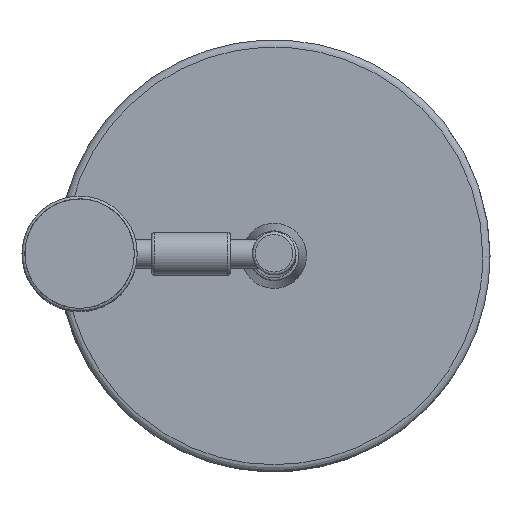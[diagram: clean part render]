
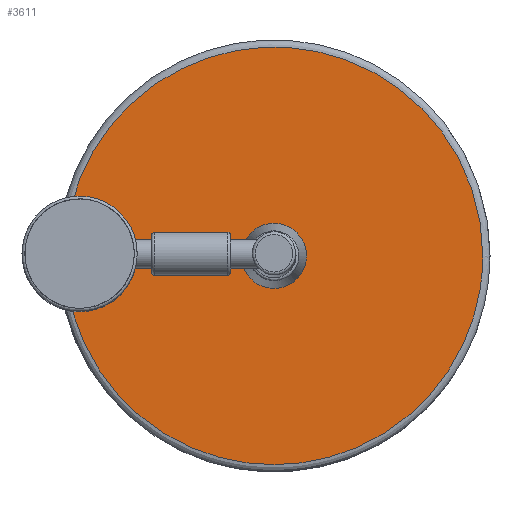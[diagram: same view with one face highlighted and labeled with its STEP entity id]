
A CAD part, top view. The second image highlights one B-rep face of the part: STEP entity #3611.
In plain terms, the highlighted free-form (B-spline) face has degree [1, 1] with [2, 2] control points.
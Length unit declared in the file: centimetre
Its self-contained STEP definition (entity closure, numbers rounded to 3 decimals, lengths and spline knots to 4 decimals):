
#3550 = CARTESIAN_POINT ('', (7.25, 0., 2.75));
#3551 = VERTEX_POINT ('', #3550);
#3560 = CARTESIAN_POINT ('', (7.25, 0., 2.75));
#3561 = CARTESIAN_POINT ('', (7.25, 7.25, 2.75));
#3562 = CARTESIAN_POINT ('', (0., 7.25, 2.75));
#3563 = CARTESIAN_POINT ('', (-7.25, 7.25, 2.75));
#3564 = CARTESIAN_POINT ('', (-7.25, 0., 2.75));
#3565 = CARTESIAN_POINT ('', (-7.25, -7.25, 2.75));
#3566 = CARTESIAN_POINT ('', (0., -7.25, 2.75));
#3567 = CARTESIAN_POINT ('', (7.25, -7.25, 2.75));
#3568 = CARTESIAN_POINT ('', (7.25, 0., 2.75));
#3569 = (
   BOUNDED_CURVE ()
   B_SPLINE_CURVE (2, (#3560, #3561, #3562, #3563, #3564, #3565, #3566, #3567, #3568), .UNSPECIFIED., .T., .U.)
   B_SPLINE_CURVE_WITH_KNOTS ((3, 2, 2, 2, 3), (0., 0.25, 0.5, 0.75, 1.), .UNSPECIFIED.)
   CURVE ()
   GEOMETRIC_REPRESENTATION_ITEM ()
   RATIONAL_B_SPLINE_CURVE ((1., 0.707, 1., 0.707, 1., 0.707, 1., 0.707, 1.))
   REPRESENTATION_ITEM ('')
);
#3570 = EDGE_CURVE ('', #3551, #3551, #3569, .T.);
#3603 = ORIENTED_EDGE ('', *, *, #3570, .T.);
#3604 = EDGE_LOOP ('', (#3603));
#3605 = FACE_OUTER_BOUND ('', #3604, .T.);
#3606 = CARTESIAN_POINT ('', (22.0048, -21.337, 2.75));
#3607 = CARTESIAN_POINT ('', (-22.543, -21.337, 2.75));
#3608 = CARTESIAN_POINT ('', (22.0048, 23.2108, 2.75));
#3609 = CARTESIAN_POINT ('', (-22.543, 23.2108, 2.75));
#3610 = B_SPLINE_SURFACE_WITH_KNOTS ('', 1, 1, ((#3606, #3607), (#3608, #3609)), .UNSPECIFIED., .F., .F., .U., (2, 2), (2, 2), (0., 1.), (0., 1.), .UNSPECIFIED.);
#3611 = ADVANCED_FACE ('', (#3605), #3610, .T.);
